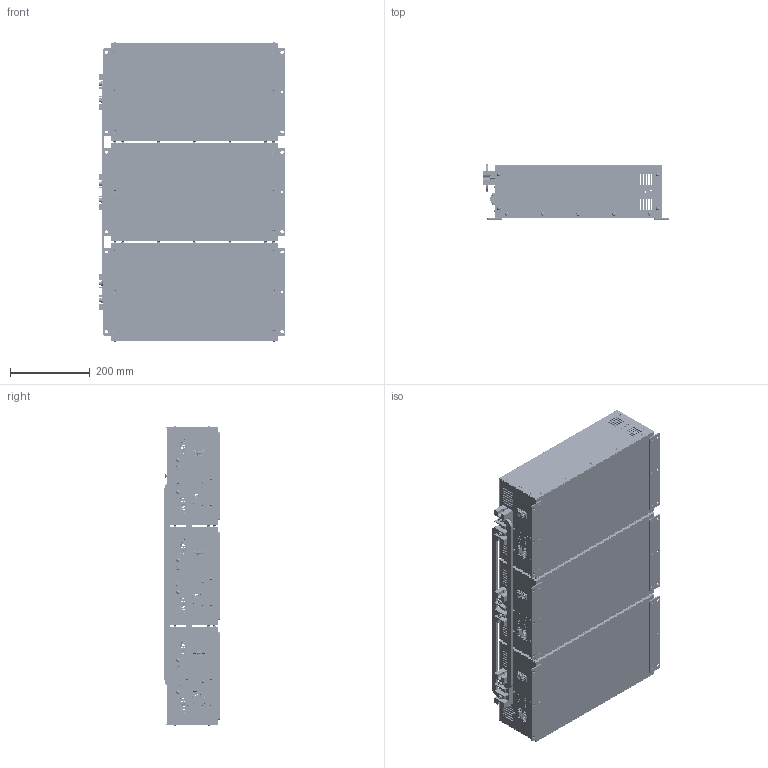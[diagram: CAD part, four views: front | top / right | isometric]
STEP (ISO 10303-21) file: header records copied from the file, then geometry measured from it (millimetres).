
FILE_DESCRIPTION(/* description */ (''),/* implementation_level */ '2;1');
FILE_NAME(/* name */ 'G:\016_배터리 버스바 도면\VX3COM-3P\3D 도면\[ STEP, IGES 파일 ]\BUS-VX3-3P-U-L514.stp',/* time_stamp */ '2025-03-20T16:32:34+09:00',/* author */ ('jjang'),/* organization */ (''),/* preprocessor_version */ 'ST-DEVELOPER v18.1',/* originating_system */ 'Autodesk Inventor 2021',/* authorisation */ '');
FILE_SCHEMA (('CONFIG_CONTROL_DESIGN'));
Products named in the file (1): $VX3COM BUSBAR ASS'Y_Shrinkwrap_1
Bounding box: 468 x 138.22 x 752.09 mm (x, y, z)
Volume: 2253424.5 mm3; surface area: 2765474.6 mm2
Topology: 19 solids, 19 shells, 13456 faces, 40215 edges, 27828 vertices
Faces by surface type: plane 7144, cylinder 3768, bspline 1896, torus 384, cone 183, sphere 81
Full cylindrical faces by diameter (mm): 0.609 x3, 0.61 x81, 0.635 x27, 0.9 x18, 1.397 x27, 1.4 x3, 2.286 x27, 2.8 x24, 2.957 x12, 3 x6, 3.048 x12, 3.2 x12, 3.6 x30, 3.783 x6, 3.8 x24, 3.9 x6, 4 x93, 4.3 x36, 4.5 x24, 5 x51, 5.3 x60, 5.4 x6, 5.429 x6, 5.6 x12, 6 x6, 6.082 x3, 6.2 x3, 6.6 x6, 7.5 x18, 8 x3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
Entity records: 548809 total; most frequent: CARTESIAN_POINT 179930, ORIENTED_EDGE 80316, DIRECTION 67519, EDGE_CURVE 40158, VERTEX_POINT 27828, AXIS2_PLACEMENT_3D 23075, LINE 21369, VECTOR 21369
